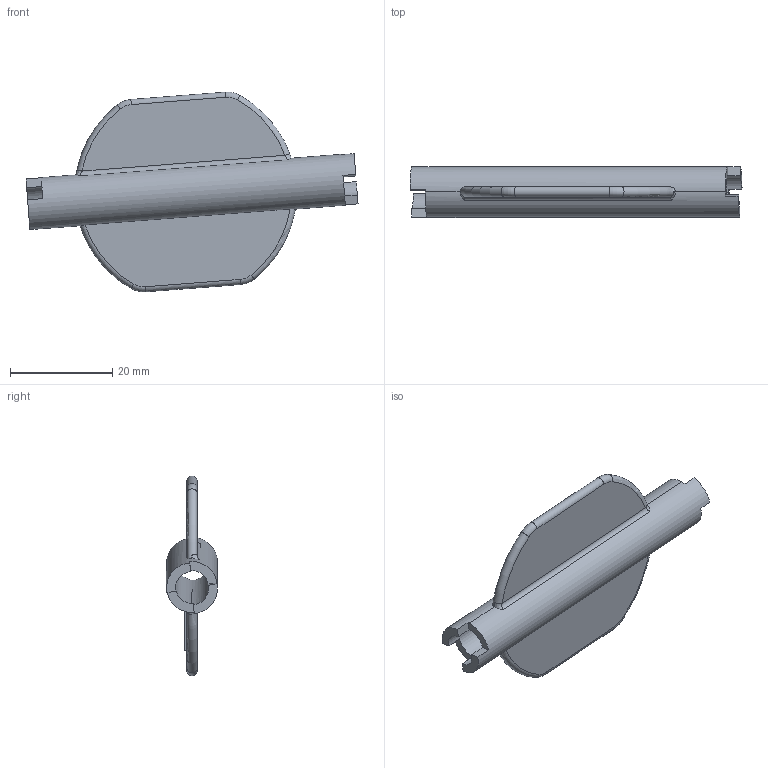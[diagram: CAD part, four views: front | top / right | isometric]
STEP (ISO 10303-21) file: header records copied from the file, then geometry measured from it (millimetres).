
FILE_DESCRIPTION((''),'2;1');
FILE_NAME('0000237103_PRT','2025-11-12T18:35:42',('Wyndorps'),(''),'CREO PARAMETRIC BY PTC INC, 2025010','CREO PARAMETRIC BY PTC INC, 2025010','');
FILE_SCHEMA(('CONFIG_CONTROL_DESIGN'));
Length unit declared in the file: millimetre
Products named in the file (1): 0000237103_PRT
Bounding box: 65.06 x 10 x 39.14 mm (x, y, z)
Volume: 4740.6 mm3; surface area: 5282.2 mm2
Topology: 1 solids, 1 shells, 109 faces, 301 edges, 198 vertices
Faces by surface type: plane 52, extrusion 33, cylinder 12, torus 8, bspline 4
Entity records: 4005 total; most frequent: CARTESIAN_POINT 1312, ORIENTED_EDGE 602, DIRECTION 448, EDGE_CURVE 301, VERTEX_POINT 198, VECTOR 192, LINE 159, AXIS2_PLACEMENT_3D 128
